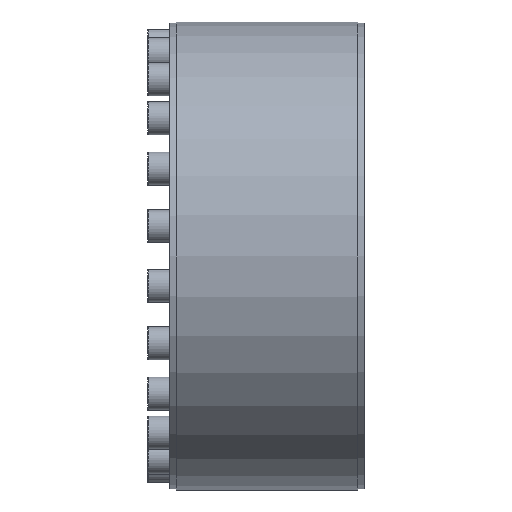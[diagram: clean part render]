
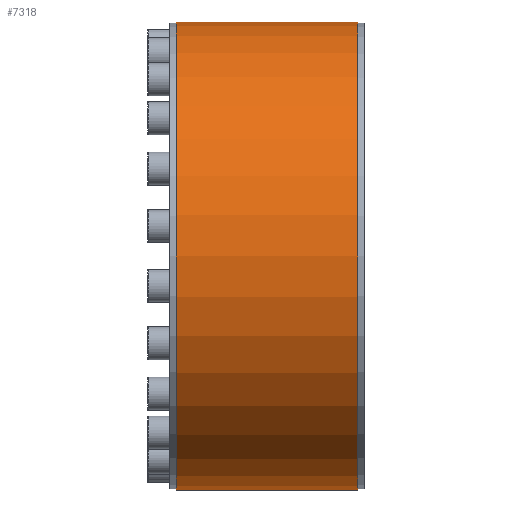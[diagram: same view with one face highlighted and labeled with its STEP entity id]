
A CAD part, left-side view. The second image highlights one B-rep face of the part: STEP entity #7318.
In plain terms, the highlighted cylindrical face has radius 212.5 mm (diameter 425 mm), a partial arc.
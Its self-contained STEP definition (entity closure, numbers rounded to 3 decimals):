
#695 = ORIENTED_EDGE ( 'NONE', *, *, #5371, .F. ) ;
#739 = LINE ( 'NONE', #5318, #7096 ) ;
#905 = CARTESIAN_POINT ( 'NONE',  ( 0., 82.5, -212.5 ) ) ;
#1367 = AXIS2_PLACEMENT_3D ( 'NONE', #7583, #7005, #7035 ) ;
#1492 = CARTESIAN_POINT ( 'NONE',  ( 0., 82.5, 212.5 ) ) ;
#1547 = EDGE_CURVE ( 'NONE', #2015, #2692, #1732, .T. ) ;
#1732 = CIRCLE ( 'NONE', #1367, 212.5 ) ;
#2015 = VERTEX_POINT ( 'NONE', #1492 ) ;
#2042 = VECTOR ( 'NONE', #3614, 1000. ) ;
#2411 = CARTESIAN_POINT ( 'NONE',  ( 0., -82.5, 212.5 ) ) ;
#2554 = ORIENTED_EDGE ( 'NONE', *, *, #6351, .T. ) ;
#2692 = VERTEX_POINT ( 'NONE', #905 ) ;
#2797 = DIRECTION ( 'NONE',  ( 0., -1., 0. ) ) ;
#3312 = ORIENTED_EDGE ( 'NONE', *, *, #4891, .F. ) ;
#3375 = CARTESIAN_POINT ( 'NONE',  ( 0., -82.5, -212.5 ) ) ;
#3614 = DIRECTION ( 'NONE',  ( 0., -1., 0. ) ) ;
#4030 = DIRECTION ( 'NONE',  ( 0., 0., -1. ) ) ;
#4329 = ORIENTED_EDGE ( 'NONE', *, *, #1547, .T. ) ;
#4790 = VERTEX_POINT ( 'NONE', #3375 ) ;
#4891 = EDGE_CURVE ( 'NONE', #2015, #5872, #739, .T. ) ;
#5030 = AXIS2_PLACEMENT_3D ( 'NONE', #5887, #5271, #7090 ) ;
#5271 = DIRECTION ( 'NONE',  ( 0., -1., 0. ) ) ;
#5282 = CARTESIAN_POINT ( 'NONE',  ( 0., -82.5, 0. ) ) ;
#5311 = DIRECTION ( 'NONE',  ( 0., -1., 0. ) ) ;
#5318 = CARTESIAN_POINT ( 'NONE',  ( 0., 0., 212.5 ) ) ;
#5371 = EDGE_CURVE ( 'NONE', #5872, #4790, #6807, .T. ) ;
#5494 = FACE_OUTER_BOUND ( 'NONE', #5635, .T. ) ;
#5635 = EDGE_LOOP ( 'NONE', ( #3312, #4329, #2554, #695 ) ) ;
#5872 = VERTEX_POINT ( 'NONE', #2411 ) ;
#5887 = CARTESIAN_POINT ( 'NONE',  ( 0., 0., 0. ) ) ;
#6026 = CARTESIAN_POINT ( 'NONE',  ( 0., 0., -212.5 ) ) ;
#6351 = EDGE_CURVE ( 'NONE', #2692, #4790, #6520, .T. ) ;
#6520 = LINE ( 'NONE', #6026, #2042 ) ;
#6807 = CIRCLE ( 'NONE', #7635, 212.5 ) ;
#7005 = DIRECTION ( 'NONE',  ( 0., -1., 0. ) ) ;
#7035 = DIRECTION ( 'NONE',  ( 0., 0., -1. ) ) ;
#7090 = DIRECTION ( 'NONE',  ( 0., 0., -1. ) ) ;
#7096 = VECTOR ( 'NONE', #2797, 1000. ) ;
#7318 = ADVANCED_FACE ( 'NONE', ( #5494 ), #7481, .T. ) ;
#7481 = CYLINDRICAL_SURFACE ( 'NONE', #5030, 212.5 ) ;
#7583 = CARTESIAN_POINT ( 'NONE',  ( 0., 82.5, 0. ) ) ;
#7635 = AXIS2_PLACEMENT_3D ( 'NONE', #5282, #5311, #4030 ) ;
